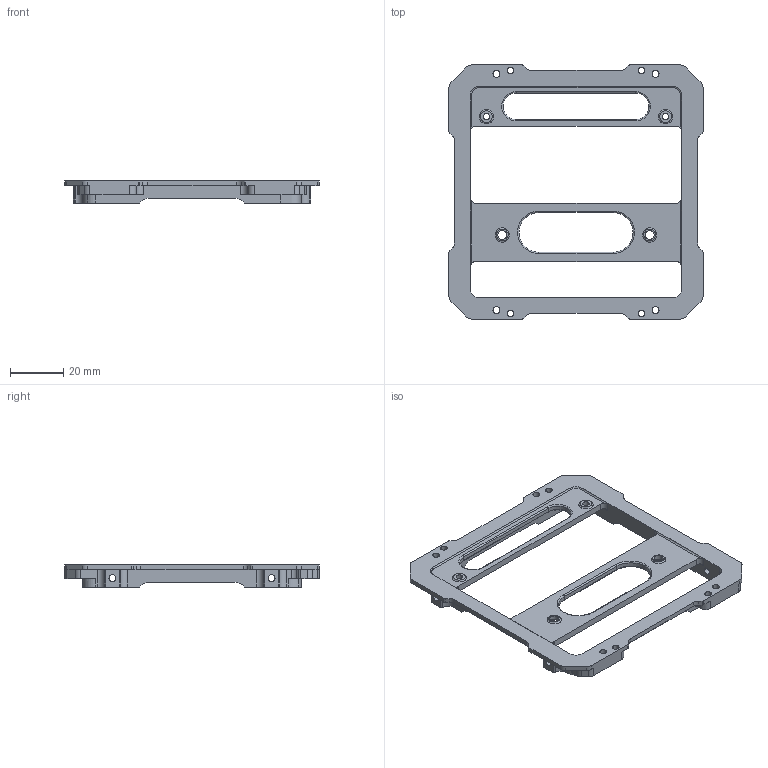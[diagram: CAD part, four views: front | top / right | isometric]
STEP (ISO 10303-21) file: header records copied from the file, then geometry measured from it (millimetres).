
FILE_DESCRIPTION (( 'STEP AP214' ), '1' );
FILE_NAME ('IF_Payload_Platform.STEP', '2025-01-13T17:26:01', ( '' ), ( '' ), 'SwSTEP 2.0', 'SolidWorks 2022', '' );
FILE_SCHEMA (( 'AUTOMOTIVE_DESIGN' ));
Length unit declared in the file: millimetre
Products named in the file (1): IF_Payload_Platform
Bounding box: 95.8 x 95.8 x 8.4 mm (x, y, z)
Volume: 13358.9 mm3; surface area: 14612.7 mm2
Topology: 1 solids, 1 shells, 267 faces, 752 edges, 488 vertices
Faces by surface type: cylinder 115, plane 92, bspline 28, torus 24, cone 8
Entity records: 11797 total; most frequent: CARTESIAN_POINT 2891, ORIENTED_EDGE 1504, DIRECTION 1365, EDGE_CURVE 752, AXIS2_PLACEMENT_3D 507, VERTEX_POINT 488, LINE 351, VECTOR 351
